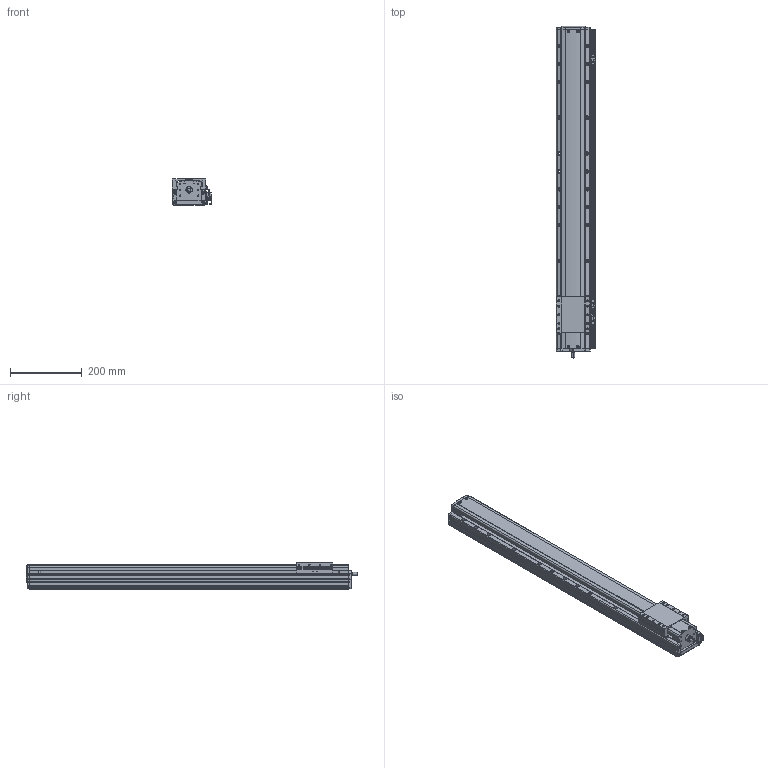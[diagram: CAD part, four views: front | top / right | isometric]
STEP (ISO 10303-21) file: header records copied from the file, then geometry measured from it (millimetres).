
FILE_DESCRIPTION(('STEP AP214'),'1');
FILE_NAME('Z:/Web/3D/PSA95/STP/PSA95-700 (3D)/PSA95ㅁㅁ-700+3SR.stp','2014-07-03T00:36:23',(' '),(' '),'Spatial InterOp 3D',' ',' ');
FILE_SCHEMA(('automotive_design'));
Length unit declared in the file: millimetre
Products named in the file (36): BASE; RRCV; 스크루 : Round - M4.0 x 10.0; 너트 : Square - M10.0 x 220.7419; RR1500; FRCV-090; 스크루 : Round - M4.0 x 6.0; SLBL-PA90; EE-SX674; SBK-SX674-352; 스크루 : Round - M3.0 x 6.0; M3.0 x 6.0; SRL-16x17-380L; SGD-PA95; 스크루 : Round - M3.0 x 8.0
Bounding box: 111 x 926 x 74 mm (x, y, z)
Volume: 4939287.6 mm3; surface area: 590816.7 mm2
Topology: 36 solids, 36 shells, 2356 faces, 6318 edges, 4058 vertices
Faces by surface type: plane 1368, cylinder 687, cone 213, sphere 50, bspline 24, torus 14
Entity records: 94893 total; most frequent: CARTESIAN_POINT 15903, DIRECTION 12490, ORIENTED_EDGE 12372, EDGE_CURVE 6186, LINE 4252, VECTOR 4252, AXIS2_PLACEMENT_3D 4119, VERTEX_POINT 4058
